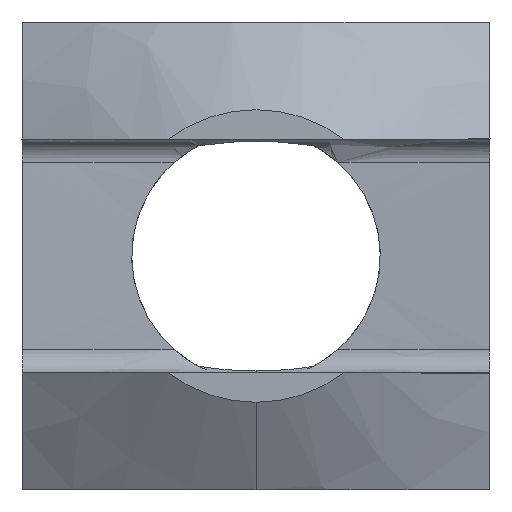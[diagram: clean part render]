
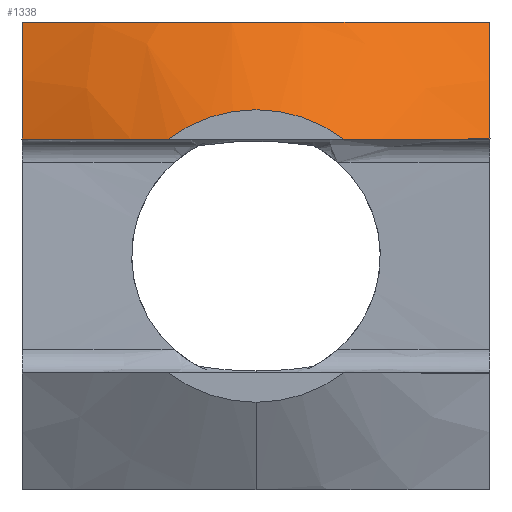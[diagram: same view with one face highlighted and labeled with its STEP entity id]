
A CAD part, left-side view. The second image highlights one B-rep face of the part: STEP entity #1338.
In plain terms, the highlighted conical face has half-angle 60 degrees and reference radius 11.352 mm.
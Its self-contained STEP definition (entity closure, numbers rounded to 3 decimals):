
#12 = VERTEX_POINT ( 'NONE', #279 ) ;
#15 = DIRECTION ( 'NONE',  ( 0., 0., -1. ) ) ;
#24 = CARTESIAN_POINT ( 'NONE',  ( -7.723, 8., 4. ) ) ;
#57 = DIRECTION ( 'NONE',  ( 1., 0., 0. ) ) ;
#67 = CARTESIAN_POINT ( 'NONE',  ( -6.355, 8., 8. ) ) ;
#75 = CARTESIAN_POINT ( 'NONE',  ( -8.204, 1.384, 8. ) ) ;
#81 = CARTESIAN_POINT ( 'NONE',  ( -6.355, -8., 8. ) ) ;
#85 = VERTEX_POINT ( 'NONE', #427 ) ;
#120 = CARTESIAN_POINT ( 'NONE',  ( -9.137, 5.122, 4. ) ) ;
#127 = EDGE_LOOP ( 'NONE', ( #706, #773, #262, #1169, #687, #719 ) ) ;
#141 = EDGE_CURVE ( 'NONE', #1030, #85, #780, .T. ) ;
#146 = B_SPLINE_CURVE_WITH_KNOTS ( 'NONE', 3,
 ( #67, #1154, #1251, #177, #183, #302, #75, #859, #1175, #851, #1384, #181, #967, #295, #636, #1278, #743, #81 ),
 .UNSPECIFIED., .F., .F.,
 ( 4, 2, 2, 2, 2, 2, 2, 2, 4 ),
 ( 0., 0.004, 0.006, 0.007, 0.008, 0.01, 0.012, 0.014, 0.016 ),
 .UNSPECIFIED. ) ;
#153 = FACE_OUTER_BOUND ( 'NONE', #127, .T. ) ;
#177 = CARTESIAN_POINT ( 'NONE',  ( -7.873, 3.431, 8. ) ) ;
#181 = CARTESIAN_POINT ( 'NONE',  ( -8.022, -2.727, 8. ) ) ;
#183 = CARTESIAN_POINT ( 'NONE',  ( -8.016, 2.759, 8. ) ) ;
#213 = CARTESIAN_POINT ( 'NONE',  ( -9.681, 3.861, 4. ) ) ;
#220 = CARTESIAN_POINT ( 'NONE',  ( -8.143, 7.185, 4. ) ) ;
#262 = ORIENTED_EDGE ( 'NONE', *, *, #340, .T. ) ;
#270 = CARTESIAN_POINT ( 'NONE',  ( -8.555, -6.367, 4. ) ) ;
#279 = CARTESIAN_POINT ( 'NONE',  ( -10., -3., 4. ) ) ;
#295 = CARTESIAN_POINT ( 'NONE',  ( -7.53, -4.739, 8. ) ) ;
#296 = CARTESIAN_POINT ( 'NONE',  ( -7.336, -8., 5.357 ) ) ;
#302 = CARTESIAN_POINT ( 'NONE',  ( -8.165, 1.731, 8. ) ) ;
#317 = CARTESIAN_POINT ( 'NONE',  ( -7.546, 8., 4.684 ) ) ;
#337 = EDGE_CURVE ( 'NONE', #1132, #621, #996, .T. ) ;
#340 = EDGE_CURVE ( 'NONE', #12, #621, #761, .T. ) ;
#380 = DIRECTION ( 'NONE',  ( 0., 0., -1. ) ) ;
#394 = CARTESIAN_POINT ( 'NONE',  ( -7.723, -8., 4. ) ) ;
#407 = CARTESIAN_POINT ( 'NONE',  ( -9.681, -3.861, 4. ) ) ;
#412 = CARTESIAN_POINT ( 'NONE',  ( -6.355, -8., 8. ) ) ;
#413 = CARTESIAN_POINT ( 'NONE',  ( -7.336, 8., 5.357 ) ) ;
#427 = CARTESIAN_POINT ( 'NONE',  ( -6.355, 8., 8. ) ) ;
#432 = CARTESIAN_POINT ( 'NONE',  ( -6.874, 8., 6.688 ) ) ;
#437 = CARTESIAN_POINT ( 'NONE',  ( -6.355, -8., 8. ) ) ;
#467 = CARTESIAN_POINT ( 'NONE',  ( -10., 3., 4. ) ) ;
#543 = AXIS2_PLACEMENT_3D ( 'NONE', #1330, #578, #15 ) ;
#578 = DIRECTION ( 'NONE',  ( 1., 0., 0. ) ) ;
#610 = CARTESIAN_POINT ( 'NONE',  ( -9.849, -3.435, 4. ) ) ;
#621 = VERTEX_POINT ( 'NONE', #1230 ) ;
#626 = CARTESIAN_POINT ( 'NONE',  ( -10., 0., 0. ) ) ;
#636 = CARTESIAN_POINT ( 'NONE',  ( -7.322, -5.402, 8. ) ) ;
#687 = ORIENTED_EDGE ( 'NONE', *, *, #1332, .F. ) ;
#702 = B_SPLINE_CURVE_WITH_KNOTS ( 'NONE', 3,
 ( #24, #220, #791, #120, #1020, #213, #1124, #467 ),
 .UNSPECIFIED., .F., .F.,
 ( 4, 2, 2, 4 ),
 ( 0., 0.003, 0.004, 0.005 ),
 .UNSPECIFIED. ) ;
#706 = ORIENTED_EDGE ( 'NONE', *, *, #1361, .T. ) ;
#719 = ORIENTED_EDGE ( 'NONE', *, *, #141, .F. ) ;
#731 = CIRCLE ( 'NONE', #1245, 5. ) ;
#735 = CARTESIAN_POINT ( 'NONE',  ( -7.723, -8., 4. ) ) ;
#743 = CARTESIAN_POINT ( 'NONE',  ( -6.617, -7.358, 8. ) ) ;
#761 = B_SPLINE_CURVE_WITH_KNOTS ( 'NONE', 3,
 ( #1252, #610, #407, #1172, #963, #270, #1176, #735 ),
 .UNSPECIFIED., .F., .F.,
 ( 4, 2, 2, 4 ),
 ( 0., 0.001, 0.003, 0.005 ),
 .UNSPECIFIED. ) ;
#773 = ORIENTED_EDGE ( 'NONE', *, *, #921, .T. ) ;
#780 = B_SPLINE_CURVE_WITH_KNOTS ( 'NONE', 3,
 ( #877, #317, #413, #432, #870, #975 ),
 .UNSPECIFIED., .F., .F.,
 ( 4, 2, 4 ),
 ( 0., 0.002, 0.004 ),
 .UNSPECIFIED. ) ;
#790 = VERTEX_POINT ( 'NONE', #1319 ) ;
#791 = CARTESIAN_POINT ( 'NONE',  ( -8.555, 6.367, 4. ) ) ;
#826 = CARTESIAN_POINT ( 'NONE',  ( -6.622, -8., 7.347 ) ) ;
#851 = CARTESIAN_POINT ( 'NONE',  ( -8.268, -0.688, 8. ) ) ;
#859 = CARTESIAN_POINT ( 'NONE',  ( -8.255, 0.69, 8. ) ) ;
#870 = CARTESIAN_POINT ( 'NONE',  ( -6.622, 8., 7.347 ) ) ;
#877 = CARTESIAN_POINT ( 'NONE',  ( -7.723, 8., 4. ) ) ;
#921 = EDGE_CURVE ( 'NONE', #790, #12, #731, .T. ) ;
#963 = CARTESIAN_POINT ( 'NONE',  ( -9.137, -5.122, 4. ) ) ;
#967 = CARTESIAN_POINT ( 'NONE',  ( -7.88, -3.4, 8. ) ) ;
#975 = CARTESIAN_POINT ( 'NONE',  ( -6.355, 8., 8. ) ) ;
#996 = B_SPLINE_CURVE_WITH_KNOTS ( 'NONE', 3,
 ( #412, #826, #1260, #296, #1073, #394 ),
 .UNSPECIFIED., .F., .F.,
 ( 4, 2, 4 ),
 ( 0., 0.002, 0.004 ),
 .UNSPECIFIED. ) ;
#1020 = CARTESIAN_POINT ( 'NONE',  ( -9.325, 4.705, 4. ) ) ;
#1030 = VERTEX_POINT ( 'NONE', #1386 ) ;
#1056 = CONICAL_SURFACE ( 'NONE', #543, 11.352, 1.047 ) ;
#1073 = CARTESIAN_POINT ( 'NONE',  ( -7.546, -8., 4.684 ) ) ;
#1124 = CARTESIAN_POINT ( 'NONE',  ( -9.849, 3.435, 4. ) ) ;
#1132 = VERTEX_POINT ( 'NONE', #437 ) ;
#1154 = CARTESIAN_POINT ( 'NONE',  ( -6.878, 6.719, 8. ) ) ;
#1169 = ORIENTED_EDGE ( 'NONE', *, *, #337, .F. ) ;
#1172 = CARTESIAN_POINT ( 'NONE',  ( -9.325, -4.705, 4. ) ) ;
#1175 = CARTESIAN_POINT ( 'NONE',  ( -8.268, 0.344, 8. ) ) ;
#1176 = CARTESIAN_POINT ( 'NONE',  ( -8.143, -7.185, 4. ) ) ;
#1230 = CARTESIAN_POINT ( 'NONE',  ( -7.723, -8., 4. ) ) ;
#1245 = AXIS2_PLACEMENT_3D ( 'NONE', #626, #57, #380 ) ;
#1251 = CARTESIAN_POINT ( 'NONE',  ( -7.348, 5.424, 8. ) ) ;
#1252 = CARTESIAN_POINT ( 'NONE',  ( -10., -3., 4. ) ) ;
#1260 = CARTESIAN_POINT ( 'NONE',  ( -6.874, -8., 6.688 ) ) ;
#1278 = CARTESIAN_POINT ( 'NONE',  ( -6.866, -6.711, 8. ) ) ;
#1319 = CARTESIAN_POINT ( 'NONE',  ( -10., 3., 4. ) ) ;
#1330 = CARTESIAN_POINT ( 'NONE',  ( -6.333, 0., 0. ) ) ;
#1332 = EDGE_CURVE ( 'NONE', #85, #1132, #146, .T. ) ;
#1338 = ADVANCED_FACE ( 'NONE', ( #153 ), #1056, .T. ) ;
#1361 = EDGE_CURVE ( 'NONE', #1030, #790, #702, .T. ) ;
#1384 = CARTESIAN_POINT ( 'NONE',  ( -8.216, -1.371, 8. ) ) ;
#1386 = CARTESIAN_POINT ( 'NONE',  ( -7.723, 8., 4. ) ) ;
